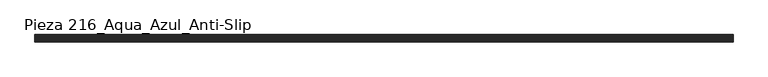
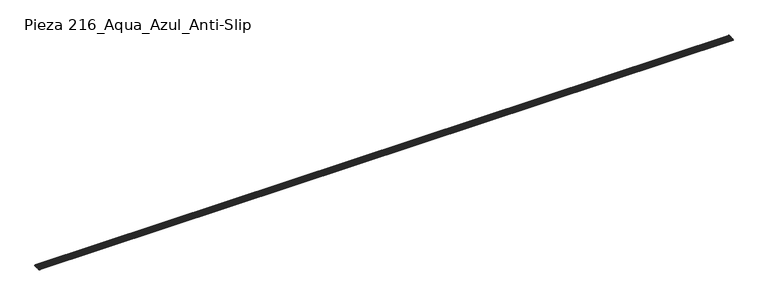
"""IFC4 building model written with IfcOpenShell, lengths in millimetres: slab geometry, ROSA GRES_216 : Pieza 216_Aqua_Azul_Anti-Slip."""

from ifc_helpers import new_model, si_unit, point, frame, frame_2d, origin, place, context, project, spatial, polyline, circle_curve, trimmed, segment, composite_curve, outline, extrude, source, transform, mapped, element, save


def pieza_216_aqua_azul_anti_slip_bd8dcea7(model_context):
    return source(origin(), model_context, "Body", "SweptSolid", [
        extrude(outline(composite_curve([segment(polyline([(50.2779274, 190.3313491), (42.6585641, 190.3344144)]), True, "CONTINUOUS"), segment(trimmed(circle_curve(frame_2d((28.4466156, 179.1524611)), 18.0835716), [point((42.6585641, 190.3344144))], [point((14.2436688, 190.3458459))], True, "CARTESIAN"), True, "CONTINUOUS"), segment(polyline([(14.2436688, 190.3458459), (5.4229579, 190.3493946), (5.1617818, 192.8343188), (0.2589396, 192.8448483), (0.270618, 198.2826277)]), True, "CONTINUOUS"), segment(trimmed(circle_curve(frame_2d((13.9356113, 198.4086002)), 13.6655739), [point((0.270618, 198.2826277))], [point((12.4148911, 211.9892969))], False, "CARTESIAN"), True, "CONTINUOUS"), segment(polyline([(12.4148911, 211.9892969), (20.9679225, 212.5430894)]), True, "CONTINUOUS"), segment(trimmed(circle_curve(frame_2d((23.8495454, 215.5123064)), 4.1376321), [point((20.9679225, 212.5430894))], [point((26.349741, 212.2154865))], True, "CARTESIAN"), True, "CONTINUOUS"), segment(trimmed(circle_curve(frame_2d((28.8499366, 208.9186667)), 4.1376321), [point((26.349741, 212.2154865))], [point((30.8950387, 212.5155483))], False, "CARTESIAN"), True, "CONTINUOUS"), segment(trimmed(circle_curve(frame_2d((32.9401407, 216.1124298)), 4.1376321), [point((30.8950387, 212.5155483))], [point((36.1886491, 213.5497765))], True, "CARTESIAN"), True, "CONTINUOUS"), segment(polyline([(36.1886491, 213.5497765), (47.02226, 214.2649666), (50.2779274, 190.3313491)]), True, "CONTINUOUS")], self_intersect=False)), frame((0.0, 0.0, 0.0), z_axis=(1.0, 0.0, 0.0), x_axis=(0.0, 1.0, 0.0)), (0.0, 0.0, 1.0), 24480.9734114),
        extrude(outline(composite_curve([segment(polyline([(263.2751802, 190.245659), (236.9233748, 190.2562605)]), True, "CONTINUOUS"), segment(trimmed(circle_curve(frame_2d((215.0085062, 186.5344061)), 22.2286676), [point((236.9233748, 190.2562605))], [point((193.0966393, 190.2738923))], True, "CARTESIAN"), True, "CONTINUOUS"), segment(polyline([(193.0966393, 190.2738923), (180.7270569, 190.2788686)]), True, "CONTINUOUS"), segment(trimmed(circle_curve(frame_2d((162.221775, 186.3703221)), 18.9135452), [point((180.7270569, 190.2788686))], [point((143.719644, 190.2937569))], True, "CARTESIAN"), True, "CONTINUOUS"), segment(polyline([(143.719644, 190.2937569), (131.5147991, 190.298667), (130.9555618, 192.6836396)]), True, "CONTINUOUS"), segment(trimmed(circle_curve(frame_2d((125.6336801, 191.4357448)), 5.4662296), [point((130.9555618, 192.6836396))], [point((129.2498705, 195.5348707))], True, "CARTESIAN"), True, "CONTINUOUS"), segment(trimmed(circle_curve(frame_2d((112.2317578, 176.2440208)), 25.7245612), [point((129.2498705, 195.5348707))], [point((96.2307788, 196.386556))], True, "CARTESIAN"), True, "CONTINUOUS"), segment(trimmed(circle_curve(frame_2d((99.6308378, 192.1064549)), 5.4662296), [point((96.2307788, 196.386556))], [point((94.4638044, 193.8901119))], True, "CARTESIAN"), True, "CONTINUOUS"), segment(polyline([(94.4638044, 193.8901119), (93.2293566, 190.3140695), (50.2802779, 190.3140695), (47.02226, 214.2649666), (51.3482048, 207.3914339)]), True, "CONTINUOUS"), segment(trimmed(circle_curve(frame_2d((63.7751184, 214.6556047)), 14.394317), [point((51.3482048, 207.3914339))], [point((57.0972438, 201.904042))], True, "CARTESIAN"), True, "CONTINUOUS"), segment(trimmed(circle_curve(frame_2d((59.2105081, 205.9393712)), 4.5551913), [point((57.0972438, 201.904042))], [point((59.5105698, 201.3940735))], True, "CARTESIAN"), True, "CONTINUOUS"), segment(polyline([(59.5105698, 201.3940735), (75.0526722, 202.4200987)]), True, "CONTINUOUS"), segment(trimmed(circle_curve(frame_2d((74.7526105, 206.9653964)), 4.5551913), [point((75.0526722, 202.4200987))], [point((76.5779698, 202.7919289))], True, "CARTESIAN"), True, "CONTINUOUS"), segment(trimmed(circle_curve(frame_2d((70.8098694, 215.980006)), 14.394317), [point((76.5779698, 202.7919289))], [point((84.083877, 210.4125036))], True, "CARTESIAN"), True, "CONTINUOUS"), segment(polyline([(84.083877, 210.4125036), (86.7854822, 216.8536554), (97.5473566, 217.5715259)]), True, "CONTINUOUS"), segment(trimmed(circle_curve(frame_2d((100.4299632, 220.5397878)), 4.1376321), [point((97.5473566, 217.5715259))], [point((102.9301588, 217.2429679))], True, "CARTESIAN"), True, "CONTINUOUS"), segment(trimmed(circle_curve(frame_2d((105.4303545, 213.9461481)), 4.1376321), [point((102.9301588, 217.2429679))], [point((107.4754565, 217.5430296))], False, "CARTESIAN"), True, "CONTINUOUS"), segment(trimmed(circle_curve(frame_2d((109.5205585, 221.1399112)), 4.1376321), [point((107.4754565, 217.5430296))], [point((112.0207542, 217.8430914))], True, "CARTESIAN"), True, "CONTINUOUS"), segment(trimmed(circle_curve(frame_2d((114.5209498, 214.5462715)), 4.1376321), [point((112.0207542, 217.8430914))], [point((116.5660518, 218.1431531))], False, "CARTESIAN"), True, "CONTINUOUS"), segment(trimmed(circle_curve(frame_2d((118.6111539, 221.7400347)), 4.1376321), [point((116.5660518, 218.1431531))], [point((121.1113495, 218.4432148))], True, "CARTESIAN"), True, "CONTINUOUS"), segment(trimmed(circle_curve(frame_2d((123.6115451, 215.1463949)), 4.1376321), [point((121.1113495, 218.4432148))], [point((125.6566472, 218.7432765))], False, "CARTESIAN"), True, "CONTINUOUS"), segment(trimmed(circle_curve(frame_2d((127.7017492, 222.3401581)), 4.1376321), [point((125.6566472, 218.7432765))], [point((130.2019448, 219.0433382))], True, "CARTESIAN"), True, "CONTINUOUS"), segment(trimmed(circle_curve(frame_2d((132.7021405, 215.7465184)), 4.1376321), [point((130.2019448, 219.0433382))], [point((134.7472425, 219.3433999))], False, "CARTESIAN"), True, "CONTINUOUS"), segment(trimmed(circle_curve(frame_2d((136.7923445, 222.9402815)), 4.1376321), [point((134.7472425, 219.3433999))], [point((139.2925402, 219.6434617))], True, "CARTESIAN"), True, "CONTINUOUS"), segment(trimmed(circle_curve(frame_2d((141.7927358, 216.3466418)), 4.1376321), [point((139.2925402, 219.6434617))], [point((143.8378378, 219.9435234))], False, "CARTESIAN"), True, "CONTINUOUS"), segment(trimmed(circle_curve(frame_2d((145.8829399, 223.540405)), 4.1376321), [point((143.8378378, 219.9435234))], [point((148.3831355, 220.2435851))], True, "CARTESIAN"), True, "CONTINUOUS"), segment(trimmed(circle_curve(frame_2d((150.8833311, 216.9467652)), 4.1376321), [point((148.3831355, 220.2435851))], [point((152.9284332, 220.5436468))], False, "CARTESIAN"), True, "CONTINUOUS"), segment(trimmed(circle_curve(frame_2d((154.9735352, 224.1405284)), 4.1376321), [point((152.9284332, 220.5436468))], [point((157.4737308, 220.8437085))], True, "CARTESIAN"), True, "CONTINUOUS"), segment(trimmed(circle_curve(frame_2d((159.9739265, 217.5468887)), 4.1376321), [point((157.4737308, 220.8437085))], [point((162.0190285, 221.1437703))], False, "CARTESIAN"), True, "CONTINUOUS"), segment(trimmed(circle_curve(frame_2d((164.0641305, 224.7406518)), 4.1376321), [point((162.0190285, 221.1437703))], [point((166.5643262, 221.443832))], True, "CARTESIAN"), True, "CONTINUOUS"), segment(trimmed(circle_curve(frame_2d((169.0645218, 218.1470121)), 4.1376321), [point((166.5643262, 221.443832))], [point((171.1096238, 221.7438937))], False, "CARTESIAN"), True, "CONTINUOUS"), segment(trimmed(circle_curve(frame_2d((173.1547259, 225.3407753)), 4.1376321), [point((171.1096238, 221.7438937))], [point((175.6549215, 222.0439554))], True, "CARTESIAN"), True, "CONTINUOUS"), segment(trimmed(circle_curve(frame_2d((178.1551171, 218.7471355)), 4.1376321), [point((175.6549215, 222.0439554))], [point((180.2002192, 222.3440171))], False, "CARTESIAN"), True, "CONTINUOUS"), segment(trimmed(circle_curve(frame_2d((182.2453212, 225.9408987)), 4.1376321), [point((180.2002192, 222.3440171))], [point((184.7455168, 222.6440788))], True, "CARTESIAN"), True, "CONTINUOUS"), segment(trimmed(circle_curve(frame_2d((187.2457125, 219.347259)), 4.1376321), [point((184.7455168, 222.6440788))], [point((189.2908145, 222.9441406))], False, "CARTESIAN"), True, "CONTINUOUS"), segment(trimmed(circle_curve(frame_2d((191.3359165, 226.5410222)), 4.1376321), [point((189.2908145, 222.9441406))], [point((193.8361122, 223.2442023))], True, "CARTESIAN"), True, "CONTINUOUS"), segment(trimmed(circle_curve(frame_2d((196.3363078, 219.9473824)), 4.1376321), [point((193.8361122, 223.2442023))], [point((198.3814098, 223.544264))], False, "CARTESIAN"), True, "CONTINUOUS"), segment(trimmed(circle_curve(frame_2d((200.4265119, 227.1411456)), 4.1376321), [point((198.3814098, 223.544264))], [point((202.9267075, 223.8443257))], True, "CARTESIAN"), True, "CONTINUOUS"), segment(trimmed(circle_curve(frame_2d((205.4269031, 220.5475058)), 4.1376321), [point((202.9267075, 223.8443257))], [point((207.4720052, 224.1443874))], False, "CARTESIAN"), True, "CONTINUOUS"), segment(trimmed(circle_curve(frame_2d((209.5171072, 227.741269)), 4.1376321), [point((207.4720052, 224.1443874))], [point((212.0173028, 224.4444492))], True, "CARTESIAN"), True, "CONTINUOUS"), segment(trimmed(circle_curve(frame_2d((214.5174985, 221.1476293)), 4.1376321), [point((212.0173028, 224.4444492))], [point((216.5626005, 224.7445109))], False, "CARTESIAN"), True, "CONTINUOUS"), segment(trimmed(circle_curve(frame_2d((218.6077025, 228.3413925)), 4.1376321), [point((216.5626005, 224.7445109))], [point((221.1078982, 225.0445726))], True, "CARTESIAN"), True, "CONTINUOUS"), segment(trimmed(circle_curve(frame_2d((223.6080938, 221.7477527)), 4.1376321), [point((221.1078982, 225.0445726))], [point((225.6531958, 225.3446343))], False, "CARTESIAN"), True, "CONTINUOUS"), segment(trimmed(circle_curve(frame_2d((227.6982979, 228.9415159)), 4.1376321), [point((225.6531958, 225.3446343))], [point((230.1984935, 225.644696))], True, "CARTESIAN"), True, "CONTINUOUS"), segment(trimmed(circle_curve(frame_2d((232.6986891, 222.3478762)), 4.1376321), [point((230.1984935, 225.644696))], [point((234.7437912, 225.9447577))], False, "CARTESIAN"), True, "CONTINUOUS"), segment(trimmed(circle_curve(frame_2d((236.7888932, 229.5416393)), 4.1376321), [point((234.7437912, 225.9447577))], [point((240.0374016, 226.9789859))], True, "CARTESIAN"), True, "CONTINUOUS"), segment(polyline([(240.0374016, 226.9789859), (249.2078603, 227.5843816), (249.1610944, 202.0976939), (263.622227, 201.6579314), (263.2751802, 190.245659)]), True, "CONTINUOUS")], self_intersect=False)), frame((0.0, 0.0, 0.0), z_axis=(1.0, 0.0, 0.0), x_axis=(0.0, 1.0, 0.0)), (0.0, 0.0, 1.0), 24480.9734114),
    ])


if __name__ == "__main__":
    model = new_model("IFC4")
    model_context = context("Model", 3, world=origin())
    ifc_project = project(units=[si_unit("LENGTHUNIT", "METRE", prefix="MILLI")], contexts=[model_context])
    site = spatial("IfcSite", under=ifc_project)
    building = spatial("IfcBuilding", under=site)
    placement = place(None, origin())
    pieza_216_aqua_azul_anti_slip_shape = pieza_216_aqua_azul_anti_slip_bd8dcea7(model_context)
    element("IfcSlab", 1, ObjectType="ROSA GRES_216 : Pieza 216_Aqua_Azul_Anti-Slip", at=placement, inside=building, context=model_context, shape_type="MappedRepresentation", body=[
        mapped(pieza_216_aqua_azul_anti_slip_shape, transform((0.0, 0.0, 0.0), x_axis=(1.0, 0.0, 0.0), y_axis=(0.0, 1.0, 0.0), z_axis=(0.0, 0.0, 1.0))),
    ])
    save(model, "model.ifc")
